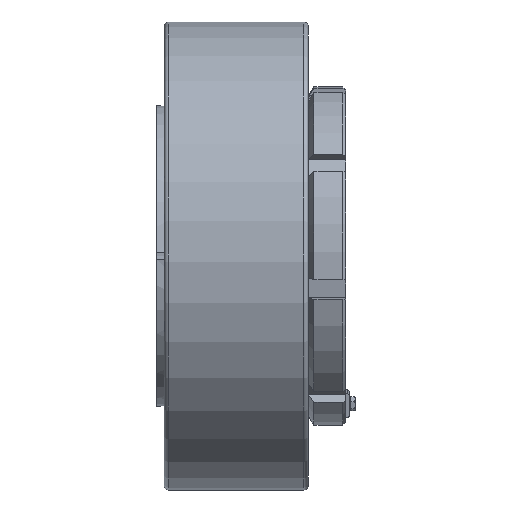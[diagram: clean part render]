
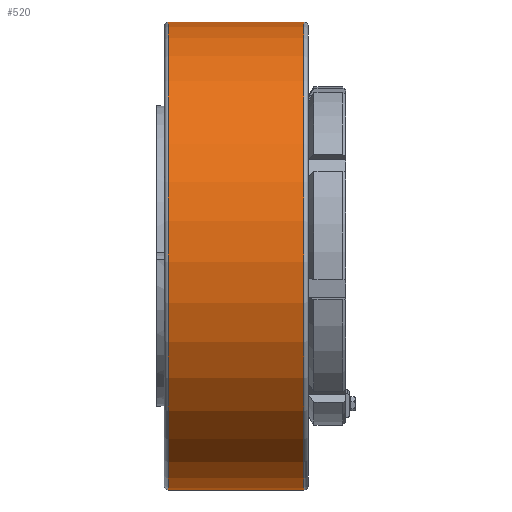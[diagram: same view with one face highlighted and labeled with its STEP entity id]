
A CAD part, front view. The second image highlights one B-rep face of the part: STEP entity #520.
In plain terms, the highlighted cylindrical face has radius 325 mm (diameter 650 mm), a full revolution.
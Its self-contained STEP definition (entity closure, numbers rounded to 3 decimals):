
#520 = ADVANCED_FACE( '', ( #1169, #1170 ), #1171, .T. );
#1169 = FACE_OUTER_BOUND( '', #1942, .T. );
#1170 = FACE_OUTER_BOUND( '', #1943, .T. );
#1171 = CYLINDRICAL_SURFACE( '', #1944, 325. );
#1942 = EDGE_LOOP( '', ( #4076 ) );
#1943 = EDGE_LOOP( '', ( #4077 ) );
#1944 = AXIS2_PLACEMENT_3D( '', #4078, #4079, #4080 );
#4076 = ORIENTED_EDGE( '', *, *, #5532, .T. );
#4077 = ORIENTED_EDGE( '', *, *, #5546, .F. );
#4078 = CARTESIAN_POINT( '', ( 0., 0., 0. ) );
#4079 = DIRECTION( '', ( -1., 0., 0. ) );
#4080 = DIRECTION( '', ( 0., 0., -1. ) );
#5532 = EDGE_CURVE( '', #6788, #6788, #6789, .T. );
#5546 = EDGE_CURVE( '', #6816, #6816, #6817, .T. );
#6788 = VERTEX_POINT( '', #8837 );
#6789 = CIRCLE( '', #8838, 325. );
#6816 = VERTEX_POINT( '', #8865 );
#6817 = CIRCLE( '', #8866, 325. );
#8837 = CARTESIAN_POINT( '', ( -256., 0., -325. ) );
#8838 = AXIS2_PLACEMENT_3D( '', #10400, #10401, #10402 );
#8865 = CARTESIAN_POINT( '', ( -68., 0., -325. ) );
#8866 = AXIS2_PLACEMENT_3D( '', #10442, #10443, #10444 );
#10400 = CARTESIAN_POINT( '', ( -256., 0., 0. ) );
#10401 = DIRECTION( '', ( 1., 0., 0. ) );
#10402 = DIRECTION( '', ( 0., 0., -1. ) );
#10442 = CARTESIAN_POINT( '', ( -68., 0., 0. ) );
#10443 = DIRECTION( '', ( 1., 0., 0. ) );
#10444 = DIRECTION( '', ( 0., 0., -1. ) );
